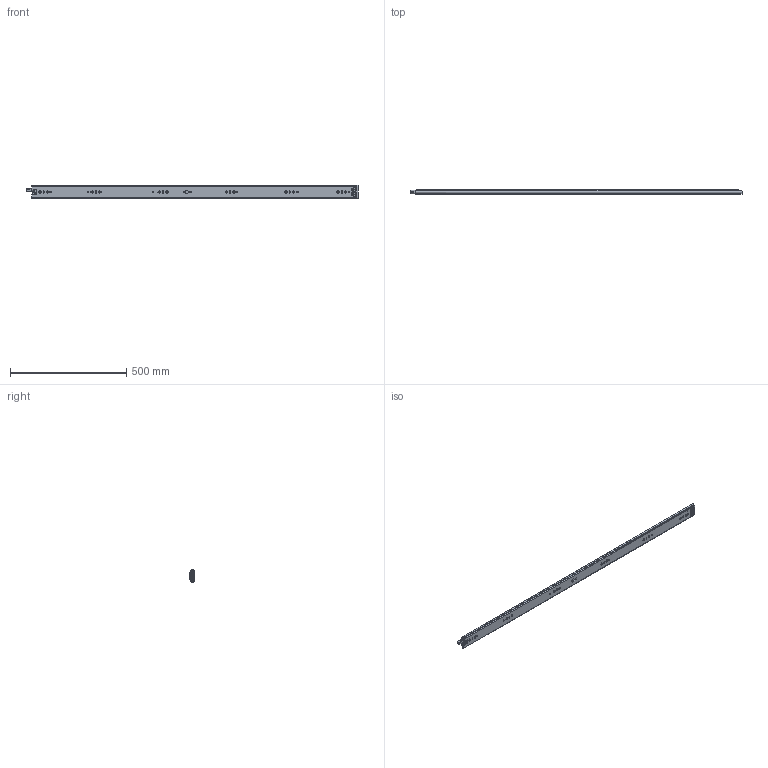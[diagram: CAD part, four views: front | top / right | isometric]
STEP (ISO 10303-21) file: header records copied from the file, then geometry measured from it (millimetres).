
FILE_DESCRIPTION((''),'2;1');
FILE_NAME('DG-57-22-56-YOU_ASM_ASM','2023-01-05T',('jishu015'),(''),'PRO/ENGINEER BY PARAMETRIC TECHNOLOGY CORPORATION, 2010280','PRO/ENGINEER BY PARAMETRIC TECHNOLOGY CORPORATION, 2010280','');
FILE_SCHEMA(('CONFIG_CONTROL_DESIGN'));
Products named in the file (27): KP-57-01WEIKE-18________1; 1057WEIJIAO________1; WAIKE______ASM_1_ASM; KP-57-01ZHONGGUI-18________1; ZHONGGUIPEIJIAN-11______1; ZHONGGUISUOKOU-11______1; KP-57-01ZHONGGUI-18________ASM__ASM; 1057XIAOZHUJIA________1; 1057-5-6GANZHU________1; 1057XIAOZHUJIA-14GE________ASM__ASM; KP-57-01NEIGUI-18________1; PJ-57-08______1; DIAOPIAN-11______1; 50XINSUOKOU-1______1; MANIFOLD_SOLID_BREP_109064; MANIFOLD_SOLID_BREP_109292; TANHUANG______1_ASM; MANIFOLD_SOLID_BREP_110332; MANIFOLD_SOLID_BREP_110773; 1053-3SBANJI122____1_ASM; JIAO11____1; KP-57-01NEIGUI-18________ASM_1_ASM; 1053ZHUTIAO-175____________1; 53-5-6GANZHU____________1; 1053ZHUTIAO-175MM______ASM_1_ASM; DG-57-22-56-YOU_ASM_1_ASM; DG-57-22-56-YOU_ASM_ASM
Assembly tree (155 placements, depth 5):
  DG-57-22-56-YOU_ASM_ASM
    DG-57-22-56-YOU_ASM_1_ASM
      WAIKE______ASM_1_ASM
        KP-57-01WEIKE-18________1
        1057WEIJIAO________1
      KP-57-01ZHONGGUI-18________ASM__ASM
        KP-57-01ZHONGGUI-18________1
        ZHONGGUIPEIJIAN-11______1
        ZHONGGUISUOKOU-11______1
      1057XIAOZHUJIA-14GE________ASM__ASM
        1057XIAOZHUJIA________1
        1057-5-6GANZHU________1  x104
      KP-57-01NEIGUI-18________ASM_1_ASM
        KP-57-01NEIGUI-18________1
        PJ-57-08______1
        DIAOPIAN-11______1
        50XINSUOKOU-1______1
        TANHUANG______1_ASM
          MANIFOLD_SOLID_BREP_109064
          MANIFOLD_SOLID_BREP_109292
        1053-3SBANJI122____1_ASM
          MANIFOLD_SOLID_BREP_110332
          MANIFOLD_SOLID_BREP_110773
        JIAO11____1
      1053ZHUTIAO-175MM______ASM_1_ASM  x2
        1053ZHUTIAO-175____________1
        53-5-6GANZHU____________1
Bounding box: 1425.42 x 19.04 x 57.68 mm (x, y, z)
Volume: 619097.9 mm3; surface area: 677173.2 mm2
Topology: 173 solids, 173 shells, 3961 faces, 11863 edges, 7498 vertices
Faces by surface type: cylinder 1693, plane 1478, sphere 479, bspline 161, cone 102, torus 24, extrusion 24
Entity records: 122313 total; most frequent: CARTESIAN_POINT 29971, ORIENTED_EDGE 19632, DIRECTION 19034, EDGE_CURVE 9816, AXIS2_PLACEMENT_3D 6631, VERTEX_POINT 6400, VECTOR 5772, LINE 5748
